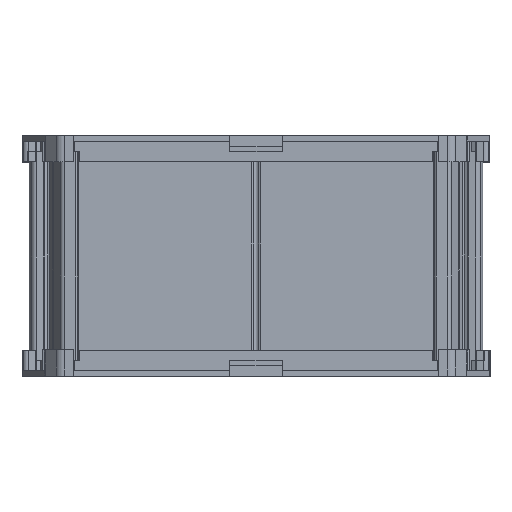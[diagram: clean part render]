
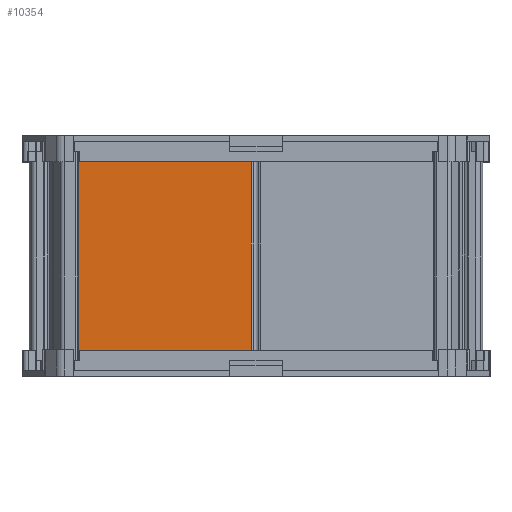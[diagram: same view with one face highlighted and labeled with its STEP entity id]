
A CAD part, top view. The second image highlights one B-rep face of the part: STEP entity #10354.
In plain terms, the highlighted planar face has unit normal (0, 0, 1) as drawn and (0, 1, 0) by its records, which use the part's own axes.
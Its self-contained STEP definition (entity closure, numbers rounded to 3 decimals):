
#788=FACE_OUTER_BOUND('',#1326,.T.);
#1326=EDGE_LOOP('',(#6923,#6924,#6925,#6926));
#1940=LINE('',#15342,#3068);
#1941=LINE('',#15344,#3069);
#1942=LINE('',#15346,#3070);
#1943=LINE('',#15347,#3071);
#3068=VECTOR('',#12219,1.);
#3069=VECTOR('',#12220,1.);
#3070=VECTOR('',#12221,1.);
#3071=VECTOR('',#12222,1.);
#4217=VERTEX_POINT('',#15340);
#4218=VERTEX_POINT('',#15341);
#4219=VERTEX_POINT('',#15343);
#4220=VERTEX_POINT('',#15345);
#5306=EDGE_CURVE('',#4217,#4218,#1940,.T.);
#5307=EDGE_CURVE('',#4218,#4219,#1941,.T.);
#5308=EDGE_CURVE('',#4220,#4219,#1942,.T.);
#5309=EDGE_CURVE('',#4217,#4220,#1943,.T.);
#6923=ORIENTED_EDGE('',*,*,#5306,.T.);
#6924=ORIENTED_EDGE('',*,*,#5307,.T.);
#6925=ORIENTED_EDGE('',*,*,#5308,.F.);
#6926=ORIENTED_EDGE('',*,*,#5309,.F.);
#9993=PLANE('',#11067);
#10354=ADVANCED_FACE('',(#788),#9993,.F.);
#11067=AXIS2_PLACEMENT_3D('',#15339,#12217,#12218);
#12217=DIRECTION('center_axis',(0.,-1.,0.));
#12218=DIRECTION('ref_axis',(-1.,0.,0.));
#12219=DIRECTION('',(-1.,0.,0.));
#12220=DIRECTION('',(0.,0.,1.));
#12221=DIRECTION('',(-1.,0.,0.));
#12222=DIRECTION('',(0.,0.,1.));
#15339=CARTESIAN_POINT('Origin',(-0.866,21.5,-10.));
#15340=CARTESIAN_POINT('',(-0.866,21.5,1.75));
#15341=CARTESIAN_POINT('',(-36.444,21.5,1.75));
#15342=CARTESIAN_POINT('',(0.,21.5,1.75));
#15343=CARTESIAN_POINT('',(-36.444,21.5,41.75));
#15344=CARTESIAN_POINT('',(-36.444,21.5,0.));
#15345=CARTESIAN_POINT('',(-0.866,21.5,41.75));
#15346=CARTESIAN_POINT('',(0.,21.5,41.75));
#15347=CARTESIAN_POINT('',(-0.866,21.5,-10.));
